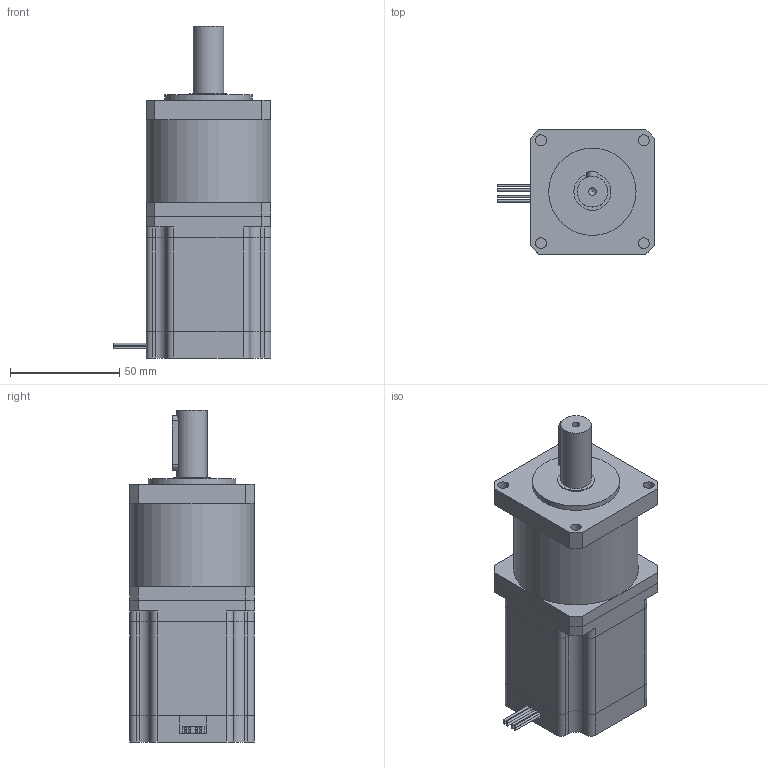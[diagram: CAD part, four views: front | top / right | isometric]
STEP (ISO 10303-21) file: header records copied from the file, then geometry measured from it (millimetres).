
FILE_DESCRIPTION(/* description */ (''),/* implementation_level */ '2;1');
FILE_NAME(/* name */ '57PG005-D44-0865.stp',/* time_stamp */ '2018-08-27T10:38:18+08:00',/* author */ (''),/* organization */ (''),/* preprocessor_version */ 'ST-DEVELOPER v11',/* originating_system */ 'SIEMENS UGS NX 6.0',/* authorisation */ '');
FILE_SCHEMA (('CONFIG_CONTROL_DESIGN'));
Length unit declared in the file: millimetre
Products named in the file (1): 57PG003-D44-0865
Bounding box: 72 x 57 x 152 mm (x, y, z)
Volume: 342799.9 mm3; surface area: 52718 mm2
Topology: 5 solids, 5 shells, 155 faces, 400 edges, 266 vertices
Faces by surface type: plane 99, cylinder 55, cone 1
Full cylindrical faces by diameter (mm): 1 x8, 3.5 x1, 5 x4, 14 x1, 17 x1, 40 x1, 57 x1
Entity records: 4652 total; most frequent: DIRECTION 800, CARTESIAN_POINT 785, ORIENTED_EDGE 744, EDGE_CURVE 372, AXIS2_PLACEMENT_3D 272, VERTEX_POINT 257, LINE 256, VECTOR 256
